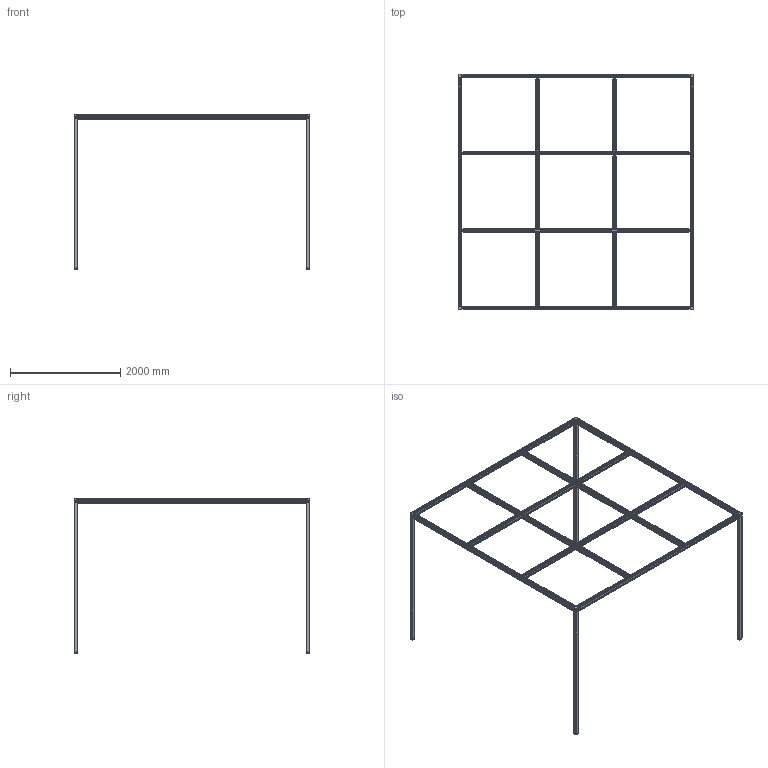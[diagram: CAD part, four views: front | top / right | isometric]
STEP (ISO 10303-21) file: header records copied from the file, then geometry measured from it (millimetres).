
FILE_DESCRIPTION (( 'STEP AP214' ), '1' );
FILE_NAME ('1001840.STEP', '2025-09-12T11:58:29', ( '' ), ( '' ), 'SwSTEP 2.0', 'SolidWorks 2025', '' );
FILE_SCHEMA (( 'AUTOMOTIVE_DESIGN' ));
Length unit declared in the file: millimetre
Products named in the file (1): 1001840
Bounding box: 4262.4 x 4262.4 x 2802 mm (x, y, z)
Volume: 105429701.5 mm3; surface area: 24655596.4 mm2
Topology: 136 solids, 136 shells, 8220 faces, 22828 edges, 15072 vertices
Faces by surface type: plane 5496, cylinder 2228, bspline 312, cone 104, sphere 64, torus 16
Entity records: 281974 total; most frequent: CARTESIAN_POINT 69705, ORIENTED_EDGE 45656, DIRECTION 41702, EDGE_CURVE 22828, VECTOR 17372, LINE 17372, VERTEX_POINT 15072, AXIS2_PLACEMENT_3D 12165
